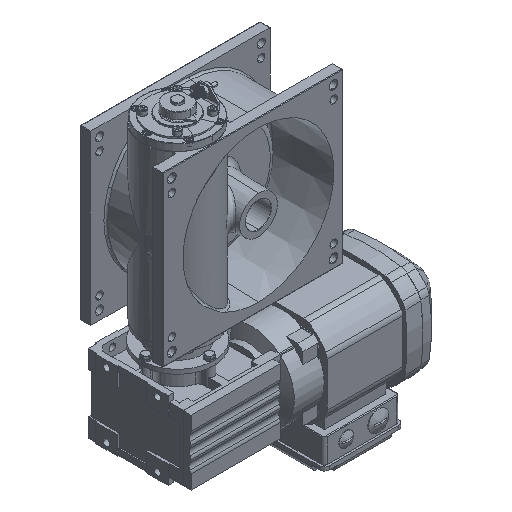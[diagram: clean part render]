
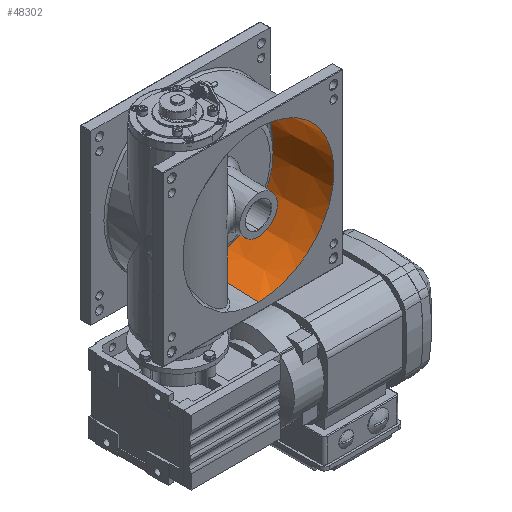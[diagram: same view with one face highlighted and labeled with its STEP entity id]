
A CAD part, isometric view. The second image highlights one B-rep face of the part: STEP entity #48302.
In plain terms, the highlighted conical face has half-angle 2 degrees and reference radius 104.105 mm.
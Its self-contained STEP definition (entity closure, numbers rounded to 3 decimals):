
#125 = VERTEX_POINT ( 'NONE', #63695 ) ;
#7073 = EDGE_CURVE ( 'NONE', #55060, #125, #12319, .T. ) ;
#7401 = LINE ( 'NONE', #28945, #51011 ) ;
#8286 = CARTESIAN_POINT ( 'NONE',  ( 0., 0., 0. ) ) ;
#9337 = CARTESIAN_POINT ( 'NONE',  ( 0., 84.705, 0. ) ) ;
#9968 = LINE ( 'NONE', #41746, #40196 ) ;
#10935 = VERTEX_POINT ( 'NONE', #58104 ) ;
#11055 = CIRCLE ( 'NONE', #33626, 101.147 ) ;
#12319 = CIRCLE ( 'NONE', #56265, 104. ) ;
#14533 = DIRECTION ( 'NONE',  ( 0., 1., 0. ) ) ;
#15701 = ORIENTED_EDGE ( 'NONE', *, *, #66760, .F. ) ;
#16426 = EDGE_LOOP ( 'NONE', ( #15701, #66413, #52250, #43351 ) ) ;
#19549 = DIRECTION ( 'NONE',  ( 0., -0.999, 0.035 ) ) ;
#24201 = FACE_OUTER_BOUND ( 'NONE', #16426, .T. ) ;
#25268 = EDGE_CURVE ( 'NONE', #10935, #125, #7401, .T. ) ;
#28945 = CARTESIAN_POINT ( 'NONE',  ( 0., 0., -104.105 ) ) ;
#28963 = CARTESIAN_POINT ( 'NONE',  ( 0., 84.705, 101.147 ) ) ;
#30885 = DIRECTION ( 'NONE',  ( 0., 0., 1. ) ) ;
#33626 = AXIS2_PLACEMENT_3D ( 'NONE', #9337, #67933, #30885 ) ;
#34667 = CARTESIAN_POINT ( 'NONE',  ( 0., 3., 0. ) ) ;
#39898 = CONICAL_SURFACE ( 'NONE', #46638, 104.105, 0.035 ) ;
#40196 = VECTOR ( 'NONE', #19549, 1000. ) ;
#40655 = DIRECTION ( 'NONE',  ( 0., 0., -1. ) ) ;
#41746 = CARTESIAN_POINT ( 'NONE',  ( 0., 0., 104.105 ) ) ;
#43351 = ORIENTED_EDGE ( 'NONE', *, *, #7073, .F. ) ;
#46012 = DIRECTION ( 'NONE',  ( 0., -1., 0. ) ) ;
#46638 = AXIS2_PLACEMENT_3D ( 'NONE', #8286, #46012, #67572 ) ;
#46737 = VERTEX_POINT ( 'NONE', #28963 ) ;
#48302 = ADVANCED_FACE ( 'NONE', ( #24201 ), #39898, .F. ) ;
#50454 = DIRECTION ( 'NONE',  ( 0., -0.999, -0.035 ) ) ;
#51011 = VECTOR ( 'NONE', #50454, 1000. ) ;
#52250 = ORIENTED_EDGE ( 'NONE', *, *, #25268, .T. ) ;
#54676 = EDGE_CURVE ( 'NONE', #46737, #10935, #11055, .T. ) ;
#55060 = VERTEX_POINT ( 'NONE', #67050 ) ;
#56265 = AXIS2_PLACEMENT_3D ( 'NONE', #34667, #14533, #40655 ) ;
#58104 = CARTESIAN_POINT ( 'NONE',  ( 0., 84.705, -101.147 ) ) ;
#63695 = CARTESIAN_POINT ( 'NONE',  ( 0., 3., -104. ) ) ;
#66413 = ORIENTED_EDGE ( 'NONE', *, *, #54676, .T. ) ;
#66760 = EDGE_CURVE ( 'NONE', #46737, #55060, #9968, .T. ) ;
#67050 = CARTESIAN_POINT ( 'NONE',  ( 0., 3., 104. ) ) ;
#67572 = DIRECTION ( 'NONE',  ( 0., 0., -1. ) ) ;
#67933 = DIRECTION ( 'NONE',  ( 0., 1., 0. ) ) ;
